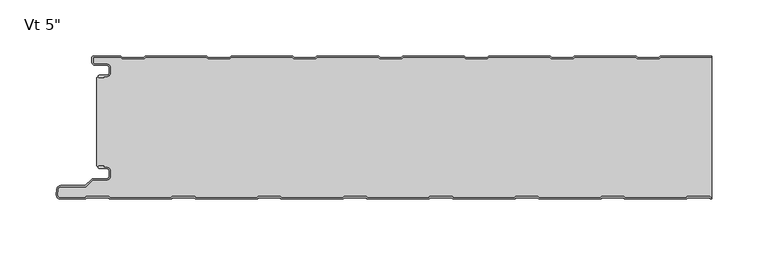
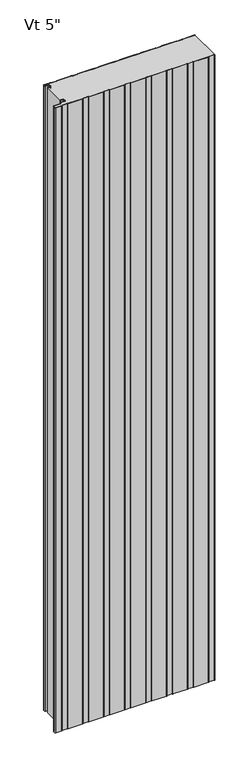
"""IFC4 building model written with IfcOpenShell, lengths in millimetres: plate geometry."""

from ifc_helpers import new_model, si_unit, point, frame, frame_2d, origin, origin_with_axes, place, context, project, spatial, polyline, circle_curve, trimmed, segment, composite_curve, outline, extrude, source, transform, mapped, element, save
from ifc_brep_helpers import plane_surface, cylinder_surface, revolved_surface, advanced_brep


def plate_f4e58c54(model_context):
    return source(origin(), model_context, "Body", "SolidModel", [
        advanced_brep(
        [(-270.768691, -17.0015159, 2400.0), (-271.7686883, -18.0015191, 2400.0), (-270.768691, -19.0015105, 2400.0), (-266.7684874, -19.0015105, 2400.0), (-266.7684874, -18.0015159, 2400.0), (-264.0762776, -18.0015159, 2400.0), (-260.7762819, -14.7015202, 2400.0), (-260.7762819, -10.301529, 2400.0), (-264.0762774, -7.0015335, 2400.0), (-274.4962563, -7.0015335, 2400.0), (-276.2662505, -5.2315393, 2400.0), (-276.2662505, -0.9999916, 2400.0), (-251.7659738, -0.9999916, 2400.0), (-250.3803312, -2.2002307, 2400.0), (-231.0051649, -2.2002307, 2400.0), (-229.619532, -1.0, 2400.0), (-175.5661166, -1.0, 2400.0), (-174.1804836, -2.2002307, 2400.0), (-154.8053173, -2.2002307, 2400.0), (-153.4196844, -1.0, 2400.0), (-99.366269, -1.0, 2400.0), (-97.980636, -2.2002307, 2400.0), (-78.6054697, -2.2002307, 2400.0), (-77.2198368, -1.0, 2400.0), (-23.1664214, -1.0, 2400.0), (-21.7807884, -2.2002307, 2400.0), (-2.4056221, -2.2002307, 2400.0), (-1.0199892, -1.0, 2400.0), (53.0334262, -1.0, 2400.0), (54.4190592, -2.2002307, 2400.0), (73.7942255, -2.2002307, 2400.0), (75.1798584, -1.0, 2400.0), (129.2332738, -1.0, 2400.0), (130.6189068, -2.2002307, 2400.0), (149.9940731, -2.2002307, 2400.0), (151.379706, -1.0, 2400.0), (205.4331214, -1.0, 2400.0), (206.8187544, -2.2002307, 2400.0), (226.1939207, -2.2002307, 2400.0), (227.5795536, -1.0, 2400.0), (272.7999998, -1.0, 2400.0), (272.7999998, 0.0, 2400.0), (227.7287048, 0.0, 2400.0), (226.8120879, -0.3417885, 2400.0), (225.8210403, -1.2002307, 2400.0), (207.1916348, -1.2002307, 2400.0), (206.2005872, -0.3417885, 2400.0), (205.2839703, 0.0, 2400.0), (151.5288572, 0.0, 2400.0), (150.6122403, -0.3417885, 2400.0), (149.6211927, -1.2002307, 2400.0), (130.9917872, -1.2002307, 2400.0), (130.0007396, -0.3417885, 2400.0), (129.0841227, 0.0, 2400.0), (75.3290096, 0.0, 2400.0), (74.4123927, -0.3417885, 2400.0), (73.4213451, -1.2002307, 2400.0), (54.7919396, -1.2002307, 2400.0), (53.800892, -0.3417885, 2400.0), (52.8842751, 0.0, 2400.0), (-0.870838, 0.0, 2400.0), (-1.7874549, -0.3417885, 2400.0), (-2.7785025, -1.2002307, 2400.0), (-21.407908, -1.2002307, 2400.0), (-22.3989556, -0.3417885, 2400.0), (-23.3155725, 0.0, 2400.0), (-77.0706856, 0.0, 2400.0), (-77.9873025, -0.3417885, 2400.0), (-78.9783501, -1.2002307, 2400.0), (-97.6077556, -1.2002307, 2400.0), (-98.5988032, -0.3417885, 2400.0), (-99.5154201, 0.0, 2400.0), (-153.2705332, 0.0, 2400.0), (-154.1871501, -0.3417885, 2400.0), (-155.1781977, -1.2002307, 2400.0), (-173.8076032, -1.2002307, 2400.0), (-174.7986508, -0.3417885, 2400.0), (-175.7152677, 0.0, 2400.0), (-229.4703808, 0.0, 2400.0), (-230.3869977, -0.3417885, 2400.0), (-231.3780453, -1.2002307, 2400.0), (-250.0074508, -1.2002307, 2400.0), (-250.9984984, -0.3417885, 2400.0), (-251.9152067, 0.0, 2400.0), (-275.8662543, 8.4e-06, 2400.0), (-277.2662505, -1.3999878, 2400.0), (-277.2662505, -5.2315393, 2400.0), (-274.4962563, -8.0015335, 2400.0), (-264.0762774, -8.0015335, 2400.0), (-261.7762819, -10.301529, 2400.0), (-261.7762819, -14.7015202, 2400.0), (-264.0762776, -17.0015159, 2400.0), (-270.768691, -17.0015159, 0.0), (-264.0762776, -17.0015159, 0.0), (-261.7762819, -14.7015202, 0.0), (-261.7762819, -10.301529, 0.0), (-264.0762774, -8.0015335, 0.0), (-274.4962563, -8.0015335, 0.0), (-277.2662505, -5.2315393, 0.0), (-277.2662505, -1.3999878, 0.0), (-275.8662543, 8.4e-06, 0.0), (-251.9151153, 8.4e-06, 0.0), (-250.9984984, -0.3417885, 0.0), (-250.0074508, -1.2002307, 0.0), (-231.3780453, -1.2002307, 0.0), (-230.3869977, -0.3417885, 0.0), (-229.4703808, 0.0, 0.0), (-175.7152677, 0.0, 0.0), (-174.7986508, -0.3417885, 0.0), (-173.8076032, -1.2002307, 0.0), (-155.1781977, -1.2002307, 0.0), (-154.1871501, -0.3417885, 0.0), (-153.2705332, 0.0, 0.0), (-99.5154201, 0.0, 0.0), (-98.5988032, -0.3417885, 0.0), (-97.6077556, -1.2002307, 0.0), (-78.9783501, -1.2002307, 0.0), (-77.9873025, -0.3417885, 0.0), (-77.0706856, 0.0, 0.0), (-23.3155725, 0.0, 0.0), (-22.3989556, -0.3417885, 0.0), (-21.407908, -1.2002307, 0.0), (-2.7785025, -1.2002307, 0.0), (-1.7874549, -0.3417885, 0.0), (-0.870838, 0.0, 0.0), (52.8842751, 0.0, 0.0), (53.800892, -0.3417885, 0.0), (54.7919396, -1.2002307, 0.0), (73.4213451, -1.2002307, 0.0), (74.4123927, -0.3417885, 0.0), (75.3290096, 0.0, 0.0), (129.0841227, 0.0, 0.0), (130.0007396, -0.3417885, 0.0), (130.9917872, -1.2002307, 0.0), (149.6211927, -1.2002307, 0.0), (150.6122403, -0.3417885, 0.0), (151.5288572, 0.0, 0.0), (205.2839703, 0.0, 0.0), (206.2005872, -0.3417885, 0.0), (207.1916348, -1.2002307, 0.0), (225.8210403, -1.2002307, 0.0), (226.8120879, -0.3417885, 0.0), (227.7287048, 0.0, 0.0), (272.7999998, 0.0, 0.0), (272.7999998, -1.0, 0.0), (227.5795536, -1.0, 0.0), (226.1939207, -2.2002307, 0.0), (206.8187544, -2.2002307, 0.0), (205.4331214, -1.0, 0.0), (151.379706, -1.0, 0.0), (149.9940731, -2.2002307, 0.0), (130.6189068, -2.2002307, 0.0), (129.2332738, -1.0, 0.0), (75.1798584, -1.0, 0.0), (73.7942255, -2.2002307, 0.0), (54.4190592, -2.2002307, 0.0), (53.0334262, -1.0, 0.0), (-1.0199892, -1.0, 0.0), (-2.4056221, -2.2002307, 0.0), (-21.7807884, -2.2002307, 0.0), (-23.1664214, -1.0, 0.0), (-77.2198368, -1.0, 0.0), (-78.6054697, -2.2002307, 0.0), (-97.980636, -2.2002307, 0.0), (-99.366269, -1.0, 0.0), (-153.4196844, -1.0, 0.0), (-154.8053173, -2.2002307, 0.0), (-174.1804836, -2.2002307, 0.0), (-175.5661166, -1.0, 0.0), (-229.619532, -1.0, 0.0), (-231.0051649, -2.2002307, 0.0), (-250.3803312, -2.2002307, 0.0), (-251.7659738, -0.9999916, 0.0), (-276.2662505, -0.9999916, 0.0), (-276.2662505, -5.2315393, 0.0), (-274.4962563, -7.0015335, 0.0), (-264.0762774, -7.0015335, 0.0), (-260.7762819, -10.301529, 0.0), (-260.7762819, -14.7015202, 0.0), (-264.0762776, -18.0015159, 0.0), (-266.7684874, -18.0015159, 0.0), (-266.7684874, -19.0015105, 0.0), (-270.768691, -19.0015105, 0.0), (-271.7686882, -18.0015192, 0.0)],
        [
            (0, 1, circle_curve(frame((-270.768691, -18.0015132, 2400.0), z_axis=(0.0, 0.0, 1.0), x_axis=(1.0, 0.0, 0.0)), 0.9999973)),
            (1, 2, circle_curve(frame((-270.768691, -18.0015133, 2400.0), z_axis=(0.0, 0.0, 1.0), x_axis=(1.0, 0.0, 0.0)), 0.9999972)),
            (2, 3),
            (3, 4),
            (4, 5),
            (5, 6, circle_curve(frame((-264.0762776, -14.7015202, 2400.0), z_axis=(0.0, 0.0, 1.0), x_axis=(1.0, 0.0, 0.0)), 3.2999957)),
            (6, 7),
            (7, 8, circle_curve(frame((-264.0762774, -10.301529, 2400.0), z_axis=(0.0, 0.0, 1.0), x_axis=(1.0, 0.0, 0.0)), 3.2999955)),
            (8, 9),
            (9, 10, circle_curve(frame((-274.4962563, -5.2315393, 2400.0), z_axis=(0.0, 0.0, -1.0), x_axis=(1.0, 0.0, 0.0)), 1.7699942)),
            (10, 11),
            (11, 12),
            (12, 13),
            (13, 14),
            (14, 15),
            (15, 16),
            (16, 17),
            (17, 18),
            (18, 19),
            (19, 20),
            (20, 21),
            (21, 22),
            (22, 23),
            (23, 24),
            (24, 25),
            (25, 26),
            (26, 27),
            (27, 28),
            (28, 29),
            (29, 30),
            (30, 31),
            (31, 32),
            (32, 33),
            (33, 34),
            (34, 35),
            (35, 36),
            (36, 37),
            (37, 38),
            (38, 39),
            (39, 40),
            (40, 41),
            (41, 42),
            (42, 43, circle_curve(frame((227.7287048, -1.3999972, 2400.0), z_axis=(0.0, 0.0, 1.0), x_axis=(1.0, 0.0, 0.0)), 1.3999972)),
            (43, 44),
            (44, 45),
            (45, 46),
            (46, 47, circle_curve(frame((205.2839703, -1.3999972, 2400.0), z_axis=(0.0, 0.0, 1.0), x_axis=(1.0, 0.0, 0.0)), 1.3999972)),
            (47, 48),
            (48, 49, circle_curve(frame((151.5288572, -1.3999972, 2400.0), z_axis=(0.0, 0.0, 1.0), x_axis=(1.0, 0.0, 0.0)), 1.3999972)),
            (49, 50),
            (50, 51),
            (51, 52),
            (52, 53, circle_curve(frame((129.0841227, -1.3999972, 2400.0), z_axis=(0.0, 0.0, 1.0), x_axis=(1.0, 0.0, 0.0)), 1.3999972)),
            (53, 54),
            (54, 55, circle_curve(frame((75.3290096, -1.3999972, 2400.0), z_axis=(0.0, 0.0, 1.0), x_axis=(1.0, 0.0, 0.0)), 1.3999972)),
            (55, 56),
            (56, 57),
            (57, 58),
            (58, 59, circle_curve(frame((52.8842751, -1.3999972, 2400.0), z_axis=(0.0, 0.0, 1.0), x_axis=(1.0, 0.0, 0.0)), 1.3999972)),
            (59, 60),
            (60, 61, circle_curve(frame((-0.870838, -1.3999972, 2400.0), z_axis=(0.0, 0.0, 1.0), x_axis=(1.0, 0.0, 0.0)), 1.3999972)),
            (61, 62),
            (62, 63),
            (63, 64),
            (64, 65, circle_curve(frame((-23.3155725, -1.3999972, 2400.0), z_axis=(0.0, 0.0, 1.0), x_axis=(1.0, 0.0, 0.0)), 1.3999972)),
            (65, 66),
            (66, 67, circle_curve(frame((-77.0706856, -1.3999972, 2400.0), z_axis=(0.0, 0.0, 1.0), x_axis=(1.0, 0.0, 0.0)), 1.3999972)),
            (67, 68),
            (68, 69),
            (69, 70),
            (70, 71, circle_curve(frame((-99.5154201, -1.3999972, 2400.0), z_axis=(0.0, 0.0, 1.0), x_axis=(1.0, 0.0, 0.0)), 1.3999972)),
            (71, 72),
            (72, 73, circle_curve(frame((-153.2705332, -1.3999972, 2400.0), z_axis=(0.0, 0.0, 1.0), x_axis=(1.0, 0.0, 0.0)), 1.3999972)),
            (73, 74),
            (74, 75),
            (75, 76),
            (76, 77, circle_curve(frame((-175.7152677, -1.3999972, 2400.0), z_axis=(0.0, 0.0, 1.0), x_axis=(1.0, 0.0, 0.0)), 1.3999972)),
            (77, 78),
            (78, 79, circle_curve(frame((-229.4703808, -1.3999972, 2400.0), z_axis=(0.0, 0.0, 1.0), x_axis=(1.0, 0.0, 0.0)), 1.3999972)),
            (79, 80),
            (80, 81),
            (81, 82),
            (82, 83, circle_curve(frame((-251.9151153, -1.3999972, 2400.0), z_axis=(0.0, 0.0, 1.0), x_axis=(1.0, 0.0, 0.0)), 1.3999972)),
            (83, 84),
            (84, 85, circle_curve(frame((-275.8662543, -1.3999878, 2400.0), z_axis=(0.0, 0.0, 1.0), x_axis=(1.0, 0.0, 0.0)), 1.3999962)),
            (85, 86),
            (86, 87, circle_curve(frame((-274.4962563, -5.2315393, 2400.0), z_axis=(0.0, 0.0, 1.0), x_axis=(1.0, 0.0, 0.0)), 2.7699942)),
            (87, 88),
            (88, 89, circle_curve(frame((-264.0762774, -10.301529, 2400.0), z_axis=(0.0, 0.0, -1.0), x_axis=(1.0, 0.0, 0.0)), 2.2999955)),
            (89, 90),
            (90, 91, circle_curve(frame((-264.0762776, -14.7015202, 2400.0), z_axis=(0.0, 0.0, -1.0), x_axis=(1.0, 0.0, 0.0)), 2.2999957)),
            (91, 0),
            (92, 93),
            (93, 94, circle_curve(frame((-264.0762776, -14.7015202, 0.0), z_axis=(0.0, 0.0, 1.0), x_axis=(1.0, 0.0, 0.0)), 2.2999957)),
            (94, 95),
            (95, 96, circle_curve(frame((-264.0762774, -10.301529, 0.0), z_axis=(0.0, 0.0, 1.0), x_axis=(1.0, 0.0, 0.0)), 2.2999955)),
            (96, 97),
            (97, 98, circle_curve(frame((-274.4962563, -5.2315393, 0.0), z_axis=(0.0, 0.0, -1.0), x_axis=(1.0, 0.0, 0.0)), 2.7699942)),
            (98, 99),
            (99, 100, circle_curve(frame((-275.8662543, -1.3999878, 0.0), z_axis=(0.0, 0.0, -1.0), x_axis=(1.0, 0.0, 0.0)), 1.3999962)),
            (100, 101),
            (101, 102, circle_curve(frame((-251.9151153, -1.3999972, 0.0), z_axis=(0.0, 0.0, -1.0), x_axis=(1.0, 0.0, 0.0)), 1.3999972)),
            (102, 103),
            (103, 104),
            (104, 105),
            (105, 106, circle_curve(frame((-229.4703808, -1.3999972, 0.0), z_axis=(0.0, 0.0, -1.0), x_axis=(1.0, 0.0, 0.0)), 1.3999972)),
            (106, 107),
            (107, 108, circle_curve(frame((-175.7152677, -1.3999972, 0.0), z_axis=(0.0, 0.0, -1.0), x_axis=(1.0, 0.0, 0.0)), 1.3999972)),
            (108, 109),
            (109, 110),
            (110, 111),
            (111, 112, circle_curve(frame((-153.2705332, -1.3999972, 0.0), z_axis=(0.0, 0.0, -1.0), x_axis=(1.0, 0.0, 0.0)), 1.3999972)),
            (112, 113),
            (113, 114, circle_curve(frame((-99.5154201, -1.3999972, 0.0), z_axis=(0.0, 0.0, -1.0), x_axis=(1.0, 0.0, 0.0)), 1.3999972)),
            (114, 115),
            (115, 116),
            (116, 117),
            (117, 118, circle_curve(frame((-77.0706856, -1.3999972, 0.0), z_axis=(0.0, 0.0, -1.0), x_axis=(1.0, 0.0, 0.0)), 1.3999972)),
            (118, 119),
            (119, 120, circle_curve(frame((-23.3155725, -1.3999972, 0.0), z_axis=(0.0, 0.0, -1.0), x_axis=(1.0, 0.0, 0.0)), 1.3999972)),
            (120, 121),
            (121, 122),
            (122, 123),
            (123, 124, circle_curve(frame((-0.870838, -1.3999972, 0.0), z_axis=(0.0, 0.0, -1.0), x_axis=(1.0, 0.0, 0.0)), 1.3999972)),
            (124, 125),
            (125, 126, circle_curve(frame((52.8842751, -1.3999972, 0.0), z_axis=(0.0, 0.0, -1.0), x_axis=(1.0, 0.0, 0.0)), 1.3999972)),
            (126, 127),
            (127, 128),
            (128, 129),
            (129, 130, circle_curve(frame((75.3290096, -1.3999972, 0.0), z_axis=(0.0, 0.0, -1.0), x_axis=(1.0, 0.0, 0.0)), 1.3999972)),
            (130, 131),
            (131, 132, circle_curve(frame((129.0841227, -1.3999972, 0.0), z_axis=(0.0, 0.0, -1.0), x_axis=(1.0, 0.0, 0.0)), 1.3999972)),
            (132, 133),
            (133, 134),
            (134, 135),
            (135, 136, circle_curve(frame((151.5288572, -1.3999972, 0.0), z_axis=(0.0, 0.0, -1.0), x_axis=(1.0, 0.0, 0.0)), 1.3999972)),
            (136, 137),
            (137, 138, circle_curve(frame((205.2839703, -1.3999972, 0.0), z_axis=(0.0, 0.0, -1.0), x_axis=(1.0, 0.0, 0.0)), 1.3999972)),
            (138, 139),
            (139, 140),
            (140, 141),
            (141, 142, circle_curve(frame((227.7287048, -1.3999972, 0.0), z_axis=(0.0, 0.0, -1.0), x_axis=(1.0, 0.0, 0.0)), 1.3999972)),
            (142, 143),
            (143, 144),
            (144, 145),
            (145, 146),
            (146, 147),
            (147, 148),
            (148, 149),
            (149, 150),
            (150, 151),
            (151, 152),
            (152, 153),
            (153, 154),
            (154, 155),
            (155, 156),
            (156, 157),
            (157, 158),
            (158, 159),
            (159, 160),
            (160, 161),
            (161, 162),
            (162, 163),
            (163, 164),
            (164, 165),
            (165, 166),
            (166, 167),
            (167, 168),
            (168, 169),
            (169, 170),
            (170, 171),
            (171, 172),
            (172, 173),
            (173, 174),
            (174, 175, circle_curve(frame((-274.4962563, -5.2315393, 0.0), z_axis=(0.0, 0.0, 1.0), x_axis=(1.0, 0.0, 0.0)), 1.7699942)),
            (175, 176),
            (176, 177, circle_curve(frame((-264.0762774, -10.301529, 0.0), z_axis=(0.0, 0.0, -1.0), x_axis=(1.0, 0.0, 0.0)), 3.2999955)),
            (177, 178),
            (178, 179, circle_curve(frame((-264.0762776, -14.7015202, 0.0), z_axis=(0.0, 0.0, -1.0), x_axis=(1.0, 0.0, 0.0)), 3.2999957)),
            (179, 180),
            (180, 181),
            (181, 182),
            (182, 183, circle_curve(frame((-270.768691, -18.0015133, 0.0), z_axis=(0.0, 0.0, -1.0), x_axis=(1.0, 0.0, 0.0)), 0.9999972)),
            (183, 92, circle_curve(frame((-270.768691, -18.0015132, 0.0), z_axis=(0.0, 0.0, -1.0), x_axis=(1.0, 0.0, 0.0)), 0.9999973)),
            (91, 93),
            (92, 0),
            (90, 94),
            (89, 95),
            (88, 96),
            (87, 97),
            (86, 98),
            (85, 99),
            (84, 100),
            (83, 101),
            (10, 174),
            (173, 11),
            (9, 175),
            (8, 176),
            (7, 177),
            (6, 178),
            (5, 179),
            (4, 180),
            (3, 181),
            (2, 182),
            (1, 183),
            (40, 144),
            (143, 41),
            (82, 102),
            (81, 103),
            (80, 104),
            (79, 105),
            (78, 106),
            (77, 107),
            (76, 108),
            (75, 109),
            (74, 110),
            (73, 111),
            (72, 112),
            (71, 113),
            (70, 114),
            (69, 115),
            (68, 116),
            (67, 117),
            (66, 118),
            (65, 119),
            (64, 120),
            (63, 121),
            (62, 122),
            (61, 123),
            (60, 124),
            (59, 125),
            (58, 126),
            (57, 127),
            (56, 128),
            (55, 129),
            (54, 130),
            (53, 131),
            (52, 132),
            (51, 133),
            (50, 134),
            (49, 135),
            (48, 136),
            (47, 137),
            (46, 138),
            (45, 139),
            (44, 140),
            (43, 141),
            (42, 142),
            (39, 145),
            (38, 146),
            (37, 147),
            (36, 148),
            (35, 149),
            (34, 150),
            (33, 151),
            (32, 152),
            (31, 153),
            (30, 154),
            (29, 155),
            (28, 156),
            (27, 157),
            (26, 158),
            (25, 159),
            (24, 160),
            (23, 161),
            (22, 162),
            (21, 163),
            (20, 164),
            (19, 165),
            (18, 166),
            (17, 167),
            (16, 168),
            (15, 169),
            (14, 170),
            (13, 171),
            (12, 172),
        ],
        [
            plane_surface(frame((184.4000002, 0.0, 2400.0), z_axis=(0.0, 0.0, 1.0), x_axis=(0.0, 1.0, 0.0))),
            plane_surface(frame((184.4000002, 0.0, 0.0), z_axis=(0.0, 0.0, -1.0), x_axis=(0.0, 1.0, 0.0))),
            plane_surface(frame((-270.768691, -17.0015159, 2400.0), z_axis=(0.0, 1.0, 0.0), x_axis=(0.0, 0.0, -1.0))),
            revolved_surface(polyline([(-261.7762819, -14.7015202, 0.0), (-261.7762819, -14.7015202, 2400.0)]), (-264.0762776, -14.7015202, 2400.0), (0.0, 0.0, -1.0)),
            plane_surface(frame((-261.7762819, -14.7015202, 2400.0), z_axis=(-1.0, 0.0, 0.0), x_axis=(0.0, 0.0, -1.0))),
            revolved_surface(polyline([(-261.77628189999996, -10.301529, 0.0), (-261.77628189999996, -10.301529, 2400.0)]), (-264.0762774, -10.301529, 2400.0), (0.0, 0.0, -1.0)),
            plane_surface(frame((-264.0762774, -8.0015335, 2400.0), z_axis=(0.0, -1.0, 0.0), x_axis=(0.0, 0.0, -1.0))),
            cylinder_surface(frame((-274.4962563, -5.2315393, 2400.0), z_axis=(0.0, 0.0, 1.0), x_axis=(1.0, 0.0, 0.0)), 2.7699942),
            plane_surface(frame((-277.2662505, -5.2315393, 2400.0), z_axis=(-1.0, 0.0, 0.0), x_axis=(0.0, 0.0, -1.0))),
            cylinder_surface(frame((-275.8662543, -1.3999878, 2400.0), z_axis=(0.0, 0.0, 1.0), x_axis=(1.0, 0.0, 0.0)), 1.3999962),
            plane_surface(frame((-275.8662543, 8.4e-06, 2400.0), z_axis=(0.0, 1.0, 0.0), x_axis=(0.0, 0.0, -1.0))),
            plane_surface(frame((-276.2662505, -0.9999916, 2400.0), z_axis=(1.0, 0.0, 0.0), x_axis=(0.0, 0.0, -1.0))),
            revolved_surface(polyline([(-272.72626210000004, -5.2315393, 0.0), (-272.72626210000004, -5.2315393, 2400.0)]), (-274.4962563, -5.2315393, 2400.0), (0.0, 0.0, -1.0)),
            plane_surface(frame((-274.4962563, -7.0015335, 2400.0), z_axis=(0.0, 1.0, 0.0), x_axis=(0.0, 0.0, -1.0))),
            cylinder_surface(frame((-264.0762774, -10.301529, 2400.0), z_axis=(0.0, 0.0, 1.0), x_axis=(1.0, 0.0, 0.0)), 3.2999955),
            plane_surface(frame((-260.7762819, -10.301529, 2400.0), z_axis=(1.0, 0.0, 0.0), x_axis=(0.0, 0.0, -1.0))),
            cylinder_surface(frame((-264.0762776, -14.7015202, 2400.0), z_axis=(0.0, 0.0, 1.0), x_axis=(1.0, 0.0, 0.0)), 3.2999957),
            plane_surface(frame((-264.0762776, -18.0015159, 2400.0), z_axis=(0.0, -1.0, 0.0), x_axis=(0.0, 0.0, -1.0))),
            plane_surface(frame((-266.7684874, -18.0015159, 2400.0), z_axis=(1.0, 0.0, 0.0), x_axis=(0.0, 0.0, -1.0))),
            plane_surface(frame((-266.7684874, -19.0015105, 2400.0), z_axis=(0.0, -1.0, 0.0), x_axis=(0.0, 0.0, -1.0))),
            cylinder_surface(frame((-270.768691, -18.0015133, 2400.0), z_axis=(0.0, 0.0, 1.0), x_axis=(1.0, 0.0, 0.0)), 0.9999972),
            cylinder_surface(frame((-270.768691, -18.0015132, 2400.0), z_axis=(0.0, 0.0, 1.0), x_axis=(1.0, 0.0, 0.0)), 0.9999973),
            plane_surface(frame((272.7999998, -137.0, 2400.0), z_axis=(1.0, 0.0, 0.0), x_axis=(0.0, 0.0, -1.0))),
            cylinder_surface(frame((-251.9151153, -1.3999972, 2400.0), z_axis=(0.0, 0.0, 1.0), x_axis=(1.0, 0.0, 0.0)), 1.3999972),
            plane_surface(frame((-250.9984984, -0.3417885, 2400.0), z_axis=(0.6547276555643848, 0.7558648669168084, 0.0), x_axis=(0.0, 0.0, -1.0))),
            plane_surface(frame((-240.6927481, -1.2002307, 2400.0), z_axis=(0.0, 1.0, 0.0), x_axis=(0.0, 0.0, -1.0))),
            plane_surface(frame((-231.3780453, -1.2002307, 2400.0), z_axis=(-0.6547276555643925, 0.7558648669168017, 0.0), x_axis=(0.0, 0.0, -1.0))),
            cylinder_surface(frame((-229.4703808, -1.3999972, 2400.0), z_axis=(0.0, 0.0, 1.0), x_axis=(1.0, 0.0, 0.0)), 1.3999972),
            plane_surface(frame((-229.4703808, 0.0, 2400.0), z_axis=(0.0, 1.0, 0.0), x_axis=(0.0, 0.0, -1.0))),
            cylinder_surface(frame((-175.7152677, -1.3999972, 2400.0), z_axis=(0.0, 0.0, 1.0), x_axis=(1.0, 0.0, 0.0)), 1.3999972),
            plane_surface(frame((-174.7986508, -0.3417885, 2400.0), z_axis=(0.6547276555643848, 0.7558648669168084, 0.0), x_axis=(0.0, 0.0, -1.0))),
            plane_surface(frame((-164.4929005, -1.2002307, 2400.0), z_axis=(0.0, 1.0, 0.0), x_axis=(0.0, 0.0, -1.0))),
            plane_surface(frame((-155.1781977, -1.2002307, 2400.0), z_axis=(-0.6547276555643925, 0.7558648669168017, 0.0), x_axis=(0.0, 0.0, -1.0))),
            cylinder_surface(frame((-153.2705332, -1.3999972, 2400.0), z_axis=(0.0, 0.0, 1.0), x_axis=(1.0, 0.0, 0.0)), 1.3999972),
            plane_surface(frame((-153.2705332, 0.0, 2400.0), z_axis=(0.0, 1.0, 0.0), x_axis=(0.0, 0.0, -1.0))),
            cylinder_surface(frame((-99.5154201, -1.3999972, 2400.0), z_axis=(0.0, 0.0, 1.0), x_axis=(1.0, 0.0, 0.0)), 1.3999972),
            plane_surface(frame((-98.5988032, -0.3417885, 2400.0), z_axis=(0.6547276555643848, 0.7558648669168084, 0.0), x_axis=(0.0, 0.0, -1.0))),
            plane_surface(frame((-88.2930529, -1.2002307, 2400.0), z_axis=(0.0, 1.0, 0.0), x_axis=(0.0, 0.0, -1.0))),
            plane_surface(frame((-78.9783501, -1.2002307, 2400.0), z_axis=(-0.6547276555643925, 0.7558648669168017, 0.0), x_axis=(0.0, 0.0, -1.0))),
            cylinder_surface(frame((-77.0706856, -1.3999972, 2400.0), z_axis=(0.0, 0.0, 1.0), x_axis=(1.0, 0.0, 0.0)), 1.3999972),
            plane_surface(frame((-77.0706856, 0.0, 2400.0), z_axis=(0.0, 1.0, 0.0), x_axis=(0.0, 0.0, -1.0))),
            cylinder_surface(frame((-23.3155725, -1.3999972, 2400.0), z_axis=(0.0, 0.0, 1.0), x_axis=(1.0, 0.0, 0.0)), 1.3999972),
            plane_surface(frame((-22.3989556, -0.3417885, 2400.0), z_axis=(0.6547276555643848, 0.7558648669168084, 0.0), x_axis=(0.0, 0.0, -1.0))),
            plane_surface(frame((-12.0932053, -1.2002307, 2400.0), z_axis=(0.0, 1.0, 0.0), x_axis=(0.0, 0.0, -1.0))),
            plane_surface(frame((-2.7785025, -1.2002307, 2400.0), z_axis=(-0.6547276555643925, 0.7558648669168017, 0.0), x_axis=(0.0, 0.0, -1.0))),
            cylinder_surface(frame((-0.870838, -1.3999972, 2400.0), z_axis=(0.0, 0.0, 1.0), x_axis=(1.0, 0.0, 0.0)), 1.3999972),
            plane_surface(frame((-0.870838, 0.0, 2400.0), z_axis=(0.0, 1.0, 0.0), x_axis=(0.0, 0.0, -1.0))),
            cylinder_surface(frame((52.8842751, -1.3999972, 2400.0), z_axis=(0.0, 0.0, 1.0), x_axis=(1.0, 0.0, 0.0)), 1.3999972),
            plane_surface(frame((53.800892, -0.3417885, 2400.0), z_axis=(0.6547276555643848, 0.7558648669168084, 0.0), x_axis=(0.0, 0.0, -1.0))),
            plane_surface(frame((64.1066423, -1.2002307, 2400.0), z_axis=(0.0, 1.0, 0.0), x_axis=(0.0, 0.0, -1.0))),
            plane_surface(frame((73.4213451, -1.2002307, 2400.0), z_axis=(-0.6547276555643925, 0.7558648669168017, 0.0), x_axis=(0.0, 0.0, -1.0))),
            cylinder_surface(frame((75.3290096, -1.3999972, 2400.0), z_axis=(0.0, 0.0, 1.0), x_axis=(1.0, 0.0, 0.0)), 1.3999972),
            plane_surface(frame((75.3290096, 0.0, 2400.0), z_axis=(0.0, 1.0, 0.0), x_axis=(0.0, 0.0, -1.0))),
            cylinder_surface(frame((129.0841227, -1.3999972, 2400.0), z_axis=(0.0, 0.0, 1.0), x_axis=(1.0, 0.0, 0.0)), 1.3999972),
            plane_surface(frame((130.0007396, -0.3417885, 2400.0), z_axis=(0.6547276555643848, 0.7558648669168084, 0.0), x_axis=(0.0, 0.0, -1.0))),
            plane_surface(frame((140.3064899, -1.2002307, 2400.0), z_axis=(0.0, 1.0, 0.0), x_axis=(0.0, 0.0, -1.0))),
            plane_surface(frame((149.6211927, -1.2002307, 2400.0), z_axis=(-0.6547276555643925, 0.7558648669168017, 0.0), x_axis=(0.0, 0.0, -1.0))),
            cylinder_surface(frame((151.5288572, -1.3999972, 2400.0), z_axis=(0.0, 0.0, 1.0), x_axis=(1.0, 0.0, 0.0)), 1.3999972),
            plane_surface(frame((151.5288572, 0.0, 2400.0), z_axis=(0.0, 1.0, 0.0), x_axis=(0.0, 0.0, -1.0))),
            cylinder_surface(frame((205.2839703, -1.3999972, 2400.0), z_axis=(0.0, 0.0, 1.0), x_axis=(1.0, 0.0, 0.0)), 1.3999972),
            plane_surface(frame((206.2005872, -0.3417885, 2400.0), z_axis=(0.6547276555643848, 0.7558648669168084, 0.0), x_axis=(0.0, 0.0, -1.0))),
            plane_surface(frame((216.5063375, -1.2002307, 2400.0), z_axis=(0.0, 1.0, 0.0), x_axis=(0.0, 0.0, -1.0))),
            plane_surface(frame((225.8210403, -1.2002307, 2400.0), z_axis=(-0.6547276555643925, 0.7558648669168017, 0.0), x_axis=(0.0, 0.0, -1.0))),
            cylinder_surface(frame((227.7287048, -1.3999972, 2400.0), z_axis=(0.0, 0.0, 1.0), x_axis=(1.0, 0.0, 0.0)), 1.3999972),
            plane_surface(frame((227.7287048, 0.0, 2400.0), z_axis=(0.0, 1.0, 0.0), x_axis=(0.0, 0.0, -1.0))),
            plane_surface(frame((281.632969, -1.0, 2400.0), z_axis=(0.0, -1.0, 0.0), x_axis=(0.0, 0.0, -1.0))),
            plane_surface(frame((227.5795536, -1.0, 2400.0), z_axis=(0.6547276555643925, -0.7558648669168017, 0.0), x_axis=(0.0, 0.0, -1.0))),
            plane_surface(frame((226.1939207, -2.2002307, 2400.0), z_axis=(0.0, -1.0, 0.0), x_axis=(0.0, 0.0, -1.0))),
            plane_surface(frame((206.8187544, -2.2002307, 2400.0), z_axis=(-0.6547276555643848, -0.7558648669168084, 0.0), x_axis=(0.0, 0.0, -1.0))),
            plane_surface(frame((205.4331214, -1.0, 2400.0), z_axis=(0.0, -1.0, 0.0), x_axis=(0.0, 0.0, -1.0))),
            plane_surface(frame((151.379706, -1.0, 2400.0), z_axis=(0.6547276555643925, -0.7558648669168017, 0.0), x_axis=(0.0, 0.0, -1.0))),
            plane_surface(frame((149.9940731, -2.2002307, 2400.0), z_axis=(0.0, -1.0, 0.0), x_axis=(0.0, 0.0, -1.0))),
            plane_surface(frame((130.6189068, -2.2002307, 2400.0), z_axis=(-0.6547276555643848, -0.7558648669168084, 0.0), x_axis=(0.0, 0.0, -1.0))),
            plane_surface(frame((129.2332738, -1.0, 2400.0), z_axis=(0.0, -1.0, 0.0), x_axis=(0.0, 0.0, -1.0))),
            plane_surface(frame((75.1798584, -1.0, 2400.0), z_axis=(0.6547276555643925, -0.7558648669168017, 0.0), x_axis=(0.0, 0.0, -1.0))),
            plane_surface(frame((73.7942255, -2.2002307, 2400.0), z_axis=(0.0, -1.0, 0.0), x_axis=(0.0, 0.0, -1.0))),
            plane_surface(frame((54.4190592, -2.2002307, 2400.0), z_axis=(-0.6547276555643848, -0.7558648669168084, 0.0), x_axis=(0.0, 0.0, -1.0))),
            plane_surface(frame((53.0334262, -1.0, 2400.0), z_axis=(0.0, -1.0, 0.0), x_axis=(0.0, 0.0, -1.0))),
            plane_surface(frame((-1.0199892, -1.0, 2400.0), z_axis=(0.6547276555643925, -0.7558648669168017, 0.0), x_axis=(0.0, 0.0, -1.0))),
            plane_surface(frame((-2.4056221, -2.2002307, 2400.0), z_axis=(0.0, -1.0, 0.0), x_axis=(0.0, 0.0, -1.0))),
            plane_surface(frame((-21.7807884, -2.2002307, 2400.0), z_axis=(-0.6547276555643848, -0.7558648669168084, 0.0), x_axis=(0.0, 0.0, -1.0))),
            plane_surface(frame((-23.1664214, -1.0, 2400.0), z_axis=(0.0, -1.0, 0.0), x_axis=(0.0, 0.0, -1.0))),
            plane_surface(frame((-77.2198368, -1.0, 2400.0), z_axis=(0.6547276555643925, -0.7558648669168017, 0.0), x_axis=(0.0, 0.0, -1.0))),
            plane_surface(frame((-78.6054697, -2.2002307, 2400.0), z_axis=(0.0, -1.0, 0.0), x_axis=(0.0, 0.0, -1.0))),
            plane_surface(frame((-97.980636, -2.2002307, 2400.0), z_axis=(-0.6547276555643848, -0.7558648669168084, 0.0), x_axis=(0.0, 0.0, -1.0))),
            plane_surface(frame((-99.366269, -1.0, 2400.0), z_axis=(0.0, -1.0, 0.0), x_axis=(0.0, 0.0, -1.0))),
            plane_surface(frame((-153.4196844, -1.0, 2400.0), z_axis=(0.6547276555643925, -0.7558648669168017, 0.0), x_axis=(0.0, 0.0, -1.0))),
            plane_surface(frame((-154.8053173, -2.2002307, 2400.0), z_axis=(0.0, -1.0, 0.0), x_axis=(0.0, 0.0, -1.0))),
            plane_surface(frame((-174.1804836, -2.2002307, 2400.0), z_axis=(-0.6547276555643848, -0.7558648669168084, 0.0), x_axis=(0.0, 0.0, -1.0))),
            plane_surface(frame((-175.5661166, -1.0, 2400.0), z_axis=(0.0, -1.0, 0.0), x_axis=(0.0, 0.0, -1.0))),
            plane_surface(frame((-229.619532, -1.0, 2400.0), z_axis=(0.6547276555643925, -0.7558648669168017, 0.0), x_axis=(0.0, 0.0, -1.0))),
            plane_surface(frame((-231.0051649, -2.2002307, 2400.0), z_axis=(0.0, -1.0, 0.0), x_axis=(0.0, 0.0, -1.0))),
            plane_surface(frame((-250.3803312, -2.2002307, 2400.0), z_axis=(-0.6547276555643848, -0.7558648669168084, 0.0), x_axis=(0.0, 0.0, -1.0))),
            plane_surface(frame((-251.7659738, -0.9999916, 2400.0), z_axis=(0.0, -1.0, 0.0), x_axis=(0.0, 0.0, -1.0))),
        ],
        [
            (0, [[1, 2, 3, 4, 5, 6, 7, 8, 9, 10, 11, 12, 13, 14, 15, 16, 17, 18, 19, 20, 21, 22, 23, 24, 25, 26, 27, 28, 29, 30, 31, 32, 33, 34, 35, 36, 37, 38, 39, 40, 41, 42, 43, 44, 45, 46, 47, 48, 49, 50, 51, 52, 53, 54, 55, 56, 57, 58, 59, 60, 61, 62, 63, 64, 65, 66, 67, 68, 69, 70, 71, 72, 73, 74, 75, 76, 77, 78, 79, 80, 81, 82, 83, 84, 85, 86, 87, 88, 89, 90, 91, 92]]),
            (1, [[93, 94, 95, 96, 97, 98, 99, 100, 101, 102, 103, 104, 105, 106, 107, 108, 109, 110, 111, 112, 113, 114, 115, 116, 117, 118, 119, 120, 121, 122, 123, 124, 125, 126, 127, 128, 129, 130, 131, 132, 133, 134, 135, 136, 137, 138, 139, 140, 141, 142, 143, 144, 145, 146, 147, 148, 149, 150, 151, 152, 153, 154, 155, 156, 157, 158, 159, 160, 161, 162, 163, 164, 165, 166, 167, 168, 169, 170, 171, 172, 173, 174, 175, 176, 177, 178, 179, 180, 181, 182, 183, 184]]),
            (2, [[185, -93, 186, -92]]),
            (3, [[187, -94, -185, -91]]),
            (4, [[188, -95, -187, -90]]),
            (5, [[189, -96, -188, -89]]),
            (6, [[190, -97, -189, -88]]),
            (7, [[191, -98, -190, -87]]),
            (8, [[192, -99, -191, -86]]),
            (9, [[193, -100, -192, -85]]),
            (10, [[194, -101, -193, -84]]),
            (11, [[195, -174, 196, -11]]),
            (12, [[197, -175, -195, -10]]),
            (13, [[198, -176, -197, -9]]),
            (14, [[199, -177, -198, -8]]),
            (15, [[200, -178, -199, -7]]),
            (16, [[201, -179, -200, -6]]),
            (17, [[202, -180, -201, -5]]),
            (18, [[203, -181, -202, -4]]),
            (19, [[204, -182, -203, -3]]),
            (20, [[205, -183, -204, -2]]),
            (21, [[-186, -184, -205, -1]]),
            (22, [[206, -144, 207, -41]]),
            (23, [[208, -102, -194, -83]]),
            (24, [[209, -103, -208, -82]]),
            (25, [[210, -104, -209, -81]]),
            (26, [[211, -105, -210, -80]]),
            (27, [[212, -106, -211, -79]]),
            (28, [[213, -107, -212, -78]]),
            (29, [[214, -108, -213, -77]]),
            (30, [[215, -109, -214, -76]]),
            (31, [[216, -110, -215, -75]]),
            (32, [[217, -111, -216, -74]]),
            (33, [[218, -112, -217, -73]]),
            (34, [[219, -113, -218, -72]]),
            (35, [[220, -114, -219, -71]]),
            (36, [[221, -115, -220, -70]]),
            (37, [[222, -116, -221, -69]]),
            (38, [[223, -117, -222, -68]]),
            (39, [[224, -118, -223, -67]]),
            (40, [[225, -119, -224, -66]]),
            (41, [[226, -120, -225, -65]]),
            (42, [[227, -121, -226, -64]]),
            (43, [[228, -122, -227, -63]]),
            (44, [[229, -123, -228, -62]]),
            (45, [[230, -124, -229, -61]]),
            (46, [[231, -125, -230, -60]]),
            (47, [[232, -126, -231, -59]]),
            (48, [[233, -127, -232, -58]]),
            (49, [[234, -128, -233, -57]]),
            (50, [[235, -129, -234, -56]]),
            (51, [[236, -130, -235, -55]]),
            (52, [[237, -131, -236, -54]]),
            (53, [[238, -132, -237, -53]]),
            (54, [[239, -133, -238, -52]]),
            (55, [[240, -134, -239, -51]]),
            (56, [[241, -135, -240, -50]]),
            (57, [[242, -136, -241, -49]]),
            (58, [[243, -137, -242, -48]]),
            (59, [[244, -138, -243, -47]]),
            (60, [[245, -139, -244, -46]]),
            (61, [[246, -140, -245, -45]]),
            (62, [[247, -141, -246, -44]]),
            (63, [[248, -142, -247, -43]]),
            (64, [[-42, -207, -143, -248]]),
            (65, [[-145, -206, -40, 249]]),
            (66, [[250, -146, -249, -39]]),
            (67, [[251, -147, -250, -38]]),
            (68, [[252, -148, -251, -37]]),
            (69, [[253, -149, -252, -36]]),
            (70, [[254, -150, -253, -35]]),
            (71, [[255, -151, -254, -34]]),
            (72, [[256, -152, -255, -33]]),
            (73, [[257, -153, -256, -32]]),
            (74, [[258, -154, -257, -31]]),
            (75, [[259, -155, -258, -30]]),
            (76, [[260, -156, -259, -29]]),
            (77, [[261, -157, -260, -28]]),
            (78, [[262, -158, -261, -27]]),
            (79, [[263, -159, -262, -26]]),
            (80, [[264, -160, -263, -25]]),
            (81, [[265, -161, -264, -24]]),
            (82, [[266, -162, -265, -23]]),
            (83, [[267, -163, -266, -22]]),
            (84, [[268, -164, -267, -21]]),
            (85, [[269, -165, -268, -20]]),
            (86, [[270, -166, -269, -19]]),
            (87, [[271, -167, -270, -18]]),
            (88, [[272, -168, -271, -17]]),
            (89, [[273, -169, -272, -16]]),
            (90, [[274, -170, -273, -15]]),
            (91, [[275, -171, -274, -14]]),
            (92, [[276, -172, -275, -13]]),
            (93, [[-196, -173, -276, -12]]),
        ],
    ),
        extrude(outline(composite_curve([segment(polyline([(-283.4415932, -126.9997378), (-305.2521175, -126.9997378)]), True, "CONTINUOUS"), segment(trimmed(circle_curve(frame_2d((-305.2521175, -123.4294985)), 3.5702393), [point((-305.2521175, -126.9997378))], [point((-308.8087619, -123.1182281))], False, "CARTESIAN"), True, "CONTINUOUS"), segment(polyline([(-308.8087619, -123.1182281), (-308.3690674, -118.0941815)]), True, "CONTINUOUS"), segment(trimmed(circle_curve(frame_2d((-304.7198391, -118.7049826)), 3.6999926), [point((-308.3690674, -118.0941815))], [point((-304.7198391, -115.00499))], False, "CARTESIAN"), True, "CONTINUOUS"), segment(polyline([(-304.7198391, -115.00499), (-283.5773995, -115.00499)]), True, "CONTINUOUS"), segment(trimmed(circle_curve(frame_2d((-283.5773995, -113.7049926)), 1.2999974), [point((-283.5773995, -115.00499))], [point((-282.6581626, -114.6242296))], True, "CARTESIAN"), True, "CONTINUOUS"), segment(polyline([(-282.6581626, -114.6242296), (-277.8297451, -109.7958121)]), True, "CONTINUOUS"), segment(trimmed(circle_curve(frame_2d((-275.9205606, -111.7049966)), 2.6999946), [point((-277.8297451, -109.7958121))], [point((-275.9205606, -109.005002))], False, "CARTESIAN"), True, "CONTINUOUS"), segment(polyline([(-275.9205606, -109.005002), (-264.1096715, -109.005002)]), True, "CONTINUOUS"), segment(trimmed(circle_curve(frame_2d((-264.1096715, -106.6550067)), 2.3499953), [point((-264.1096715, -109.005002))], [point((-261.7596762, -106.6550067))], True, "CARTESIAN"), True, "CONTINUOUS"), segment(polyline([(-261.7596762, -106.6550067), (-261.7596762, -102.2550155)]), True, "CONTINUOUS"), segment(trimmed(circle_curve(frame_2d((-264.1096715, -102.2550155)), 2.3499953), [point((-261.7596762, -102.2550155))], [point((-264.1096715, -99.9050202))], True, "CARTESIAN"), True, "CONTINUOUS"), segment(polyline([(-264.1096715, -99.9050202), (-270.6289777, -99.9050202)]), True, "CONTINUOUS"), segment(trimmed(circle_curve(frame_2d((-270.5686906, -98.706538)), 1.1999976), [point((-270.6289777, -99.9050202))], [point((-271.7683, -98.6760161))], False, "CARTESIAN"), True, "CONTINUOUS"), segment(trimmed(circle_curve(frame_2d((-270.5686906, -98.706538)), 1.1999976), [point((-271.7683, -98.6760161))], [point((-270.567176, -97.5065413))], False, "CARTESIAN"), True, "CONTINUOUS"), segment(polyline([(-270.567176, -97.5065413), (-266.8087826, -97.5065413), (-266.8087826, -98.9050202), (-264.1096715, -98.9050202)]), True, "CONTINUOUS"), segment(trimmed(circle_curve(frame_2d((-264.1096715, -102.2550155)), 3.3499953), [point((-264.1096715, -98.9050202))], [point((-260.7596762, -102.2550155))], False, "CARTESIAN"), True, "CONTINUOUS"), segment(polyline([(-260.7596762, -102.2550155), (-260.7596762, -106.6550067)]), True, "CONTINUOUS"), segment(trimmed(circle_curve(frame_2d((-264.1096715, -106.6550067)), 3.3499953), [point((-260.7596762, -106.6550067))], [point((-264.1096715, -110.005002))], False, "CARTESIAN"), True, "CONTINUOUS"), segment(polyline([(-264.1096715, -110.005002), (-275.9205606, -110.005002)]), True, "CONTINUOUS"), segment(trimmed(circle_curve(frame_2d((-275.9205606, -111.7049966)), 1.6999946), [point((-275.9205606, -110.005002))], [point((-277.1226383, -110.5029189))], True, "CARTESIAN"), True, "CONTINUOUS"), segment(polyline([(-277.1226383, -110.5029189), (-282.6247094, -116.00499), (-304.7198391, -116.00499)]), True, "CONTINUOUS"), segment(trimmed(circle_curve(frame_2d((-304.7198391, -118.7049826)), 2.6999926), [point((-304.7198391, -116.00499))], [point((-307.3765707, -118.223592))], True, "CARTESIAN"), True, "CONTINUOUS"), segment(polyline([(-307.3765707, -118.223592), (-307.8125697, -123.2054129)]), True, "CONTINUOUS"), segment(trimmed(circle_curve(frame_2d((-305.2521175, -123.4294985)), 2.5702393), [point((-307.8125697, -123.2054129))], [point((-305.2521175, -125.9997378))], True, "CARTESIAN"), True, "CONTINUOUS"), segment(polyline([(-305.2521175, -125.9997378), (-283.279096, -125.9997378), (-282.0791275, -124.7997693), (-262.359715, -124.7997693), (-261.1594843, -126.0), (-207.0793525, -126.0), (-205.8791218, -124.7997693), (-186.1597093, -124.7997693), (-184.9594786, -126.0), (-130.8793468, -126.0), (-129.6791161, -124.7997693), (-109.9597036, -124.7997693), (-108.7594729, -126.0), (-54.6793411, -126.0), (-53.4791104, -124.7997693), (-33.7596979, -124.7997693), (-32.5594672, -126.0), (21.5206646, -126.0), (22.7208953, -124.7997693), (42.4403078, -124.7997693), (43.6405385, -126.0), (97.7206703, -126.0), (98.920901, -124.7997693), (118.6403135, -124.7997693), (119.8405442, -126.0), (173.9206759, -126.0), (175.1209066, -124.7997693), (194.8403192, -124.7997693), (196.0405499, -126.0), (250.1206816, -126.0), (251.3209123, -124.7997693), (271.0403248, -124.7997693), (272.2405555, -126.0), (272.7999998, -126.0), (272.7999998, -127.0), (272.4096744, -127.0)]), True, "CONTINUOUS"), segment(trimmed(circle_curve(frame_2d((272.402021, -125.6000237)), 1.3999972), [point((272.4096744, -127.0))], [point((271.3579702, -126.5327349))], False, "CARTESIAN"), True, "CONTINUOUS"), segment(polyline([(271.3579702, -126.5327349), (270.6250046, -125.7997693), (251.7343354, -125.7997693), (251.0013908, -126.532714)]), True, "CONTINUOUS"), segment(trimmed(circle_curve(frame_2d((249.95734, -125.6000028)), 1.3999972), [point((251.0013908, -126.532714))], [point((249.95734, -127.0))], False, "CARTESIAN"), True, "CONTINUOUS"), segment(polyline([(249.95734, -127.0), (196.2098268, -127.0)]), True, "CONTINUOUS"), segment(trimmed(circle_curve(frame_2d((196.2021734, -125.6000237)), 1.3999972), [point((196.2098268, -127.0))], [point((195.1581226, -126.5327349))], False, "CARTESIAN"), True, "CONTINUOUS"), segment(polyline([(195.1581226, -126.5327349), (194.425157, -125.7997693), (175.5344878, -125.7997693), (174.8015432, -126.532714)]), True, "CONTINUOUS"), segment(trimmed(circle_curve(frame_2d((173.7574924, -125.6000028)), 1.3999972), [point((174.8015432, -126.532714))], [point((173.7574924, -127.0))], False, "CARTESIAN"), True, "CONTINUOUS"), segment(polyline([(173.7574924, -127.0), (120.0099792, -127.0)]), True, "CONTINUOUS"), segment(trimmed(circle_curve(frame_2d((120.0023258, -125.6000237)), 1.3999972), [point((120.0099792, -127.0))], [point((118.958275, -126.5327349))], False, "CARTESIAN"), True, "CONTINUOUS"), segment(polyline([(118.958275, -126.5327349), (118.2253094, -125.7997693), (99.3346402, -125.7997693), (98.6016956, -126.532714)]), True, "CONTINUOUS"), segment(trimmed(circle_curve(frame_2d((97.5576448, -125.6000028)), 1.3999972), [point((98.6016956, -126.532714))], [point((97.5576448, -127.0))], False, "CARTESIAN"), True, "CONTINUOUS"), segment(polyline([(97.5576448, -127.0), (43.8101316, -127.0)]), True, "CONTINUOUS"), segment(trimmed(circle_curve(frame_2d((43.8024782, -125.6000237)), 1.3999972), [point((43.8101316, -127.0))], [point((42.7584274, -126.5327349))], False, "CARTESIAN"), True, "CONTINUOUS"), segment(polyline([(42.7584274, -126.5327349), (42.0254618, -125.7997693), (23.1347926, -125.7997693), (22.401848, -126.532714)]), True, "CONTINUOUS"), segment(trimmed(circle_curve(frame_2d((21.3577972, -125.6000028)), 1.3999972), [point((22.401848, -126.532714))], [point((21.3577972, -127.0))], False, "CARTESIAN"), True, "CONTINUOUS"), segment(polyline([(21.3577972, -127.0), (-32.389716, -127.0)]), True, "CONTINUOUS"), segment(trimmed(circle_curve(frame_2d((-32.3973694, -125.6000237)), 1.3999972), [point((-32.389716, -127.0))], [point((-33.4414202, -126.5327349))], False, "CARTESIAN"), True, "CONTINUOUS"), segment(polyline([(-33.4414202, -126.5327349), (-34.1743858, -125.7997693), (-53.065055, -125.7997693), (-53.7979996, -126.532714)]), True, "CONTINUOUS"), segment(trimmed(circle_curve(frame_2d((-54.8420504, -125.6000028)), 1.3999972), [point((-53.7979996, -126.532714))], [point((-54.8420504, -127.0))], False, "CARTESIAN"), True, "CONTINUOUS"), segment(polyline([(-54.8420504, -127.0), (-108.5895636, -127.0)]), True, "CONTINUOUS"), segment(trimmed(circle_curve(frame_2d((-108.597217, -125.6000237)), 1.3999972), [point((-108.5895636, -127.0))], [point((-109.6412678, -126.5327349))], False, "CARTESIAN"), True, "CONTINUOUS"), segment(polyline([(-109.6412678, -126.5327349), (-110.3742334, -125.7997693), (-129.2649026, -125.7997693), (-129.9978472, -126.532714)]), True, "CONTINUOUS"), segment(trimmed(circle_curve(frame_2d((-131.041898, -125.6000028)), 1.3999972), [point((-129.9978472, -126.532714))], [point((-131.041898, -127.0))], False, "CARTESIAN"), True, "CONTINUOUS"), segment(polyline([(-131.041898, -127.0), (-184.7894112, -127.0)]), True, "CONTINUOUS"), segment(trimmed(circle_curve(frame_2d((-184.7970646, -125.6000237)), 1.3999972), [point((-184.7894112, -127.0))], [point((-185.8411154, -126.5327349))], False, "CARTESIAN"), True, "CONTINUOUS"), segment(polyline([(-185.8411154, -126.5327349), (-186.574081, -125.7997693), (-205.4647502, -125.7997693), (-206.1976948, -126.532714)]), True, "CONTINUOUS"), segment(trimmed(circle_curve(frame_2d((-207.2417456, -125.6000028)), 1.3999972), [point((-206.1976948, -126.532714))], [point((-207.2417456, -127.0))], False, "CARTESIAN"), True, "CONTINUOUS"), segment(polyline([(-207.2417456, -127.0), (-260.9892588, -127.0)]), True, "CONTINUOUS"), segment(trimmed(circle_curve(frame_2d((-260.9969122, -125.6000237)), 1.3999972), [point((-260.9892588, -127.0))], [point((-262.040963, -126.5327349))], False, "CARTESIAN"), True, "CONTINUOUS"), segment(polyline([(-262.040963, -126.5327349), (-262.7739286, -125.7997693), (-281.6649139, -125.7997693), (-282.3976402, -126.5324955)]), True, "CONTINUOUS"), segment(trimmed(circle_curve(frame_2d((-283.4415932, -125.5998717)), 1.3998661), [point((-282.3976402, -126.5324955))], [point((-283.4415932, -126.9997378))], False, "CARTESIAN"), True, "CONTINUOUS")], self_intersect=False)), origin_with_axes(), (0.0, 0.0, 1.0), 2400.0),
        extrude(outline(composite_curve([segment(polyline([(-271.7683, -98.6760161), (-272.7999998, -97.6443162), (-272.7999998, -19.0328308), (-271.7686882, -18.0015192)]), True, "CONTINUOUS"), segment(trimmed(circle_curve(frame_2d((-270.768691, -18.0015133)), 0.9999972), [point((-271.7686882, -18.0015192))], [point((-270.768691, -19.0015105))], True, "CARTESIAN"), True, "CONTINUOUS"), segment(polyline([(-270.768691, -19.0015105), (-266.7684873, -19.0015105), (-266.7684873, -18.0015159), (-264.0762775, -18.0015159)]), True, "CONTINUOUS"), segment(trimmed(circle_curve(frame_2d((-264.0762775, -14.7015202)), 3.2999957), [point((-264.0762775, -18.0015159))], [point((-260.7762818, -14.7015202))], True, "CARTESIAN"), True, "CONTINUOUS"), segment(polyline([(-260.7762818, -14.7015202), (-260.7762818, -10.301529)]), True, "CONTINUOUS"), segment(trimmed(circle_curve(frame_2d((-264.0762777, -10.301529)), 3.2999959), [point((-260.7762818, -10.301529))], [point((-264.0762777, -7.0015331))], True, "CARTESIAN"), True, "CONTINUOUS"), segment(polyline([(-264.0762777, -7.0015331), (-274.4962562, -7.0015331)]), True, "CONTINUOUS"), segment(trimmed(circle_curve(frame_2d((-274.4962562, -5.2315389)), 1.7699942), [point((-274.4962562, -7.0015331))], [point((-276.2662504, -5.2315389))], False, "CARTESIAN"), True, "CONTINUOUS"), segment(polyline([(-276.2662504, -5.2315389), (-276.2662504, -0.9999916), (-251.7659738, -0.9999916), (-250.3803312, -2.2002307), (-231.0051649, -2.2002307), (-229.6195319, -1.0), (-175.5661165, -1.0), (-174.1804836, -2.2002307), (-154.8053173, -2.2002307), (-153.4196843, -1.0), (-99.3662689, -1.0), (-97.980636, -2.2002307), (-78.6054697, -2.2002307), (-77.2198367, -1.0), (-23.1664213, -1.0), (-21.7807884, -2.2002307), (-2.4056221, -2.2002307), (-1.0199891, -1.0), (53.0334263, -1.0), (54.4190592, -2.2002307), (73.7942255, -2.2002307), (75.1798585, -1.0), (129.2332739, -1.0), (130.6189068, -2.2002307), (149.9940731, -2.2002307), (151.3797061, -1.0), (205.4331215, -1.0), (206.8187544, -2.2002307), (226.1939207, -2.2002307), (227.5795537, -1.0), (272.7999998, -1.0), (272.7999998, -126.0), (272.2405555, -126.0), (271.0403248, -124.7997693), (251.3209123, -124.7997693), (250.1206816, -126.0), (196.0405499, -126.0), (194.8403192, -124.7997693), (175.1209066, -124.7997693), (173.9206759, -126.0), (119.8405442, -126.0), (118.6403135, -124.7997693), (98.920901, -124.7997693), (97.7206703, -126.0), (43.6405385, -126.0), (42.4403078, -124.7997693), (22.7208953, -124.7997693), (21.5206646, -126.0), (-32.5594672, -126.0), (-33.7596979, -124.7997693), (-53.4791104, -124.7997693), (-54.6793411, -126.0), (-108.7594729, -126.0), (-109.9597036, -124.7997693), (-129.6791161, -124.7997693), (-130.8793468, -126.0), (-184.9594786, -126.0), (-186.1597093, -124.7997693), (-205.8791218, -124.7997693), (-207.0793525, -126.0), (-261.1594843, -126.0), (-262.359715, -124.7997693), (-282.0791275, -124.7997693), (-283.279096, -125.9997378), (-305.2521175, -125.9997378)]), True, "CONTINUOUS"), segment(trimmed(circle_curve(frame_2d((-305.2521175, -123.4294985)), 2.5702393), [point((-305.2521175, -125.9997378))], [point((-307.8125697, -123.2054129))], False, "CARTESIAN"), True, "CONTINUOUS"), segment(polyline([(-307.8125697, -123.2054129), (-307.3765707, -118.223592)]), True, "CONTINUOUS"), segment(trimmed(circle_curve(frame_2d((-304.7198391, -118.7049826)), 2.6999926), [point((-307.3765707, -118.223592))], [point((-304.7198391, -116.00499))], False, "CARTESIAN"), True, "CONTINUOUS"), segment(polyline([(-304.7198391, -116.00499), (-282.6247094, -116.00499), (-277.1226383, -110.5029189)]), True, "CONTINUOUS"), segment(trimmed(circle_curve(frame_2d((-275.9205606, -111.7049966)), 1.6999946), [point((-277.1226383, -110.5029189))], [point((-275.9205606, -110.005002))], False, "CARTESIAN"), True, "CONTINUOUS"), segment(polyline([(-275.9205606, -110.005002), (-264.1096715, -110.005002)]), True, "CONTINUOUS"), segment(trimmed(circle_curve(frame_2d((-264.1096715, -106.6550067)), 3.3499953), [point((-264.1096715, -110.005002))], [point((-260.7596762, -106.6550067))], True, "CARTESIAN"), True, "CONTINUOUS"), segment(polyline([(-260.7596762, -106.6550067), (-260.7596762, -102.2550155)]), True, "CONTINUOUS"), segment(trimmed(circle_curve(frame_2d((-264.1096715, -102.2550155)), 3.3499953), [point((-260.7596762, -102.2550155))], [point((-264.1096715, -98.9050202))], True, "CARTESIAN"), True, "CONTINUOUS"), segment(polyline([(-264.1096715, -98.9050202), (-266.8087826, -98.9050202), (-266.8087826, -97.5065413), (-270.567176, -97.5065413)]), True, "CONTINUOUS"), segment(trimmed(circle_curve(frame_2d((-270.5686906, -98.706538)), 1.1999976), [point((-270.567176, -97.5065413))], [point((-271.7683, -98.6760161))], True, "CARTESIAN"), True, "CONTINUOUS")], self_intersect=False)), origin_with_axes(), (0.0, 0.0, 1.0), 2400.0),
    ])


if __name__ == "__main__":
    model = new_model("IFC4")
    model_context = context("Model", 3, world=origin())
    ifc_project = project(units=[si_unit("LENGTHUNIT", "METRE", prefix="MILLI")], contexts=[model_context])
    site = spatial("IfcSite", under=ifc_project)
    building = spatial("IfcBuilding", under=site)
    placement = place(None, origin())
    plate_shape = plate_f4e58c54(model_context)
    element("IfcPlate", 1, ObjectType="KIP-36-Karrier-KP-R19-CP-Vt-SL3-8in_SL : Vt 5\"", at=placement, inside=building, context=model_context, shape_type="MappedRepresentation", body=[
        mapped(plate_shape, transform((0.0, 0.0, 0.0), x_axis=(1.0, 0.0, 0.0), y_axis=(0.0, 1.0, 0.0), z_axis=(0.0, 0.0, 1.0))),
    ])
    save(model, "model.ifc")
